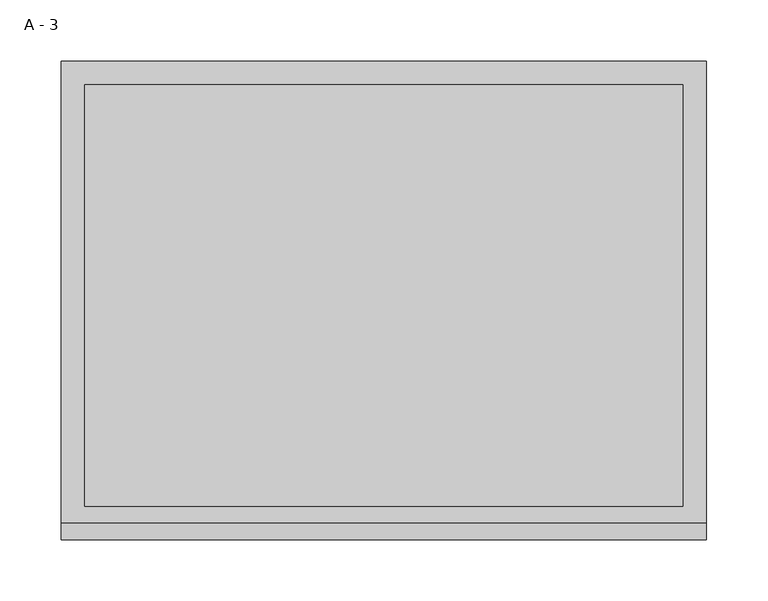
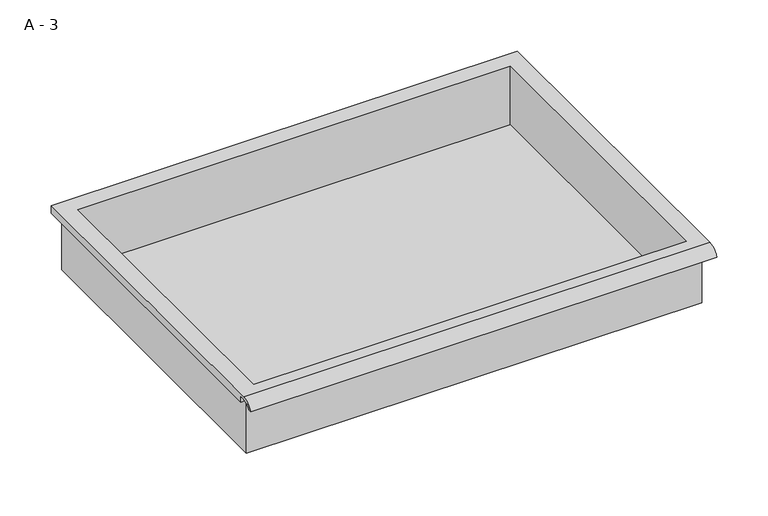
"""IFC4 building model written with IfcOpenShell, lengths in millimetres: furniture geometry, HermanMiller_CoStruc_CO207_Drawer : A - 3."""

from ifc_helpers import new_model, si_unit, frame, origin, place, context, project, spatial, polyline, circle_curve, source, transform, mapped, element, save
from ifc_brep_helpers import plane_surface, cylinder_surface, revolved_surface, advanced_brep


def a_3_99eb42a9(model_context):
    return source(origin(), model_context, "Body", "AdvancedBrep", [
        advanced_brep(
        [(-257.1076517, -176.2125, 955.675), (257.2423483, -176.2125, 955.675), (257.2423483, -176.2125, 1019.175), (263.5923483, -176.2125, 1019.175), (263.5923483, -176.2125, 1025.4821341), (-263.4576517, -176.2125, 1025.4821341), (-263.4576517, -176.2125, 1019.175), (-257.1076517, -176.2125, 1019.175), (257.2423483, 185.7375, 955.675), (-257.1076517, 185.7375, 955.675), (-257.1076517, 185.7375, 1019.175), (257.2423483, 185.7375, 1019.175), (263.5923483, -181.6070544, 1028.7), (263.5923483, 195.2625, 1028.7), (-263.4576517, 195.2625, 1028.7), (-263.4576517, -181.6070544, 1028.7), (244.5423483, -168.275, 1028.7), (-244.4076517, -168.275, 1028.7), (-244.4076517, 176.2125, 1028.7), (244.5423483, 176.2125, 1028.7), (263.5923483, -195.2625, 1019.175), (263.5923483, -191.8280601, 1019.175), (263.5923483, -180.4714815, 1025.4821341), (263.5923483, 195.2625, 1019.175), (-263.4576517, 195.2625, 1019.175), (-263.4576517, -180.4714815, 1025.4821341), (-263.4576517, -191.8280601, 1019.175), (-263.4576517, -195.2625, 1019.175), (-244.4076517, -168.275, 958.7011719), (244.5423483, -168.275, 958.7011719), (244.5423483, 176.2125, 958.7011719), (-244.4076517, 176.2125, 958.7011719)],
        [
            (0, 1),
            (1, 2),
            (2, 3),
            (3, 4),
            (4, 5),
            (5, 6),
            (6, 7),
            (7, 0),
            (8, 9),
            (9, 10),
            (10, 11),
            (11, 8),
            (0, 9),
            (8, 1),
            (11, 2),
            (12, 13),
            (13, 14),
            (14, 15),
            (15, 12),
            (16, 17),
            (17, 18),
            (18, 19),
            (19, 16),
            (7, 10),
            (12, 20, circle_curve(frame((263.5923483, -181.6070544, 1014.1489859), z_axis=(1.0, 0.0, 0.0), x_axis=(0.0, 1.0, 0.0)), 14.5510141)),
            (20, 21),
            (21, 22, circle_curve(frame((263.5923483, -181.6070544, 1014.1489859), z_axis=(-1.0, 0.0, 0.0), x_axis=(0.0, 1.0, 0.0)), 11.3898979)),
            (22, 4),
            (3, 23),
            (23, 13),
            (14, 24),
            (24, 6),
            (5, 25),
            (25, 26, circle_curve(frame((-263.4576517, -181.6070544, 1014.1489859), z_axis=(1.0, 0.0, 0.0), x_axis=(0.0, 1.0, 0.0)), 11.3898979)),
            (26, 27),
            (27, 15, circle_curve(frame((-263.4576517, -181.6070544, 1014.1489859), z_axis=(-1.0, 0.0, 0.0), x_axis=(0.0, 1.0, 0.0)), 14.5510141)),
            (27, 20),
            (26, 21),
            (25, 22),
            (24, 23),
            (28, 29),
            (29, 30),
            (30, 31),
            (31, 28),
            (28, 17),
            (16, 29),
            (19, 30),
            (18, 31),
        ],
        [
            plane_surface(frame((257.2423483, -176.2125, 955.675), z_axis=(0.0, -1.0, 0.0), x_axis=(1.0, 0.0, 0.0))),
            plane_surface(frame((257.2423483, 185.7375, 955.675), z_axis=(0.0, 1.0, 0.0), x_axis=(-1.0, 0.0, 0.0))),
            plane_surface(frame((-257.1076517, -176.2125, 955.675), z_axis=(0.0, 0.0, -1.0), x_axis=(0.0, 1.0, 0.0))),
            plane_surface(frame((257.2423483, -176.2125, 955.675), z_axis=(1.0, 0.0, 0.0), x_axis=(0.0, 1.0, 0.0))),
            plane_surface(frame((257.2423483, -176.2125, 1028.7), z_axis=(0.0, 0.0, 1.0), x_axis=(0.0, 1.0, 0.0))),
            plane_surface(frame((-257.1076517, -176.2125, 1028.7), z_axis=(-1.0, 0.0, 0.0), x_axis=(0.0, 1.0, 0.0))),
            plane_surface(frame((263.5923483, 195.2625, 1028.7), z_axis=(1.0, 0.0, 0.0), x_axis=(0.0, -1.0, 0.0))),
            plane_surface(frame((-263.4576517, 195.2625, 1028.7), z_axis=(-1.0, 0.0, 0.0), x_axis=(0.0, 1.0, 0.0))),
            cylinder_surface(frame((-263.4576517, -181.6070544, 1014.1489859), z_axis=(1.0, 0.0, 0.0), x_axis=(0.0, 1.0, 0.0)), 14.5510141),
            plane_surface(frame((263.5923483, -195.2625, 1019.175), z_axis=(0.0, -7.330645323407e-12, -1.0), x_axis=(-1.0, 0.0, 0.0))),
            revolved_surface(polyline([(-263.4576517, -170.21715650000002, 1014.1489859), (263.59234829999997, -170.21715650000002, 1014.1489859)]), (-263.4576517, -181.6070544, 1014.1489859), (-1.0, 0.0, 0.0)),
            plane_surface(frame((263.5923483, -180.4714815, 1025.4821341), z_axis=(0.0, -1.8115665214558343e-11, -1.0), x_axis=(-1.0, 0.0, 0.0))),
            plane_surface(frame((263.5923483, -176.2125, 1019.175), z_axis=(0.0, 0.0, -1.0), x_axis=(-1.0, 0.0, 0.0))),
            plane_surface(frame((263.5923483, 195.2625, 1019.175), z_axis=(0.0, 1.0, 0.0), x_axis=(-1.0, 0.0, 0.0))),
            plane_surface(frame((244.5423483, -168.275, 958.7011719), z_axis=(0.0, 0.0, 1.0), x_axis=(-1.0, 0.0, 0.0))),
            plane_surface(frame((-244.4076517, -168.275, 1028.7), z_axis=(0.0, 1.0, 0.0), x_axis=(0.0, 0.0, -1.0))),
            plane_surface(frame((244.5423483, -168.275, 1028.7), z_axis=(-1.0, 0.0, 0.0), x_axis=(0.0, 0.0, -1.0))),
            plane_surface(frame((244.5423483, 176.2125, 1028.7), z_axis=(0.0, -1.0, 0.0), x_axis=(0.0, 0.0, -1.0))),
            plane_surface(frame((-244.4076517, 176.2125, 1028.7), z_axis=(1.0, 0.0, 0.0), x_axis=(0.0, 0.0, -1.0))),
        ],
        [
            (0, [[1, 2, 3, 4, 5, 6, 7, 8]]),
            (1, [[9, 10, 11, 12]]),
            (2, [[-1, 13, -9, 14]]),
            (3, [[-14, -12, 15, -2]]),
            (4, [[16, 17, 18, 19], [20, 21, 22, 23]]),
            (5, [[-13, -8, 24, -10]]),
            (6, [[-16, 25, 26, 27, 28, -4, 29, 30]]),
            (7, [[31, 32, -6, 33, 34, 35, 36, -18]]),
            (8, [[-25, -19, -36, 37]]),
            (9, [[-26, -37, -35, 38]]),
            (10, [[-27, -38, -34, 39]]),
            (11, [[-28, -39, -33, -5]]),
            (12, [[-29, -3, -15, -11, -24, -7, -32, 40]]),
            (13, [[-30, -40, -31, -17]]),
            (14, [[41, 42, 43, 44]]),
            (15, [[-41, 45, -20, 46]]),
            (16, [[-42, -46, -23, 47]]),
            (17, [[-43, -47, -22, 48]]),
            (18, [[-44, -48, -21, -45]]),
        ],
    ),
    ])


if __name__ == "__main__":
    model = new_model("IFC4")
    model_context = context("Model", 3, world=origin())
    ifc_project = project(units=[si_unit("LENGTHUNIT", "METRE", prefix="MILLI")], contexts=[model_context])
    site = spatial("IfcSite", under=ifc_project)
    building = spatial("IfcBuilding", under=site)
    placement = place(None, origin())
    a_3_shape = a_3_99eb42a9(model_context)
    element("IfcFurniture", 1, ObjectType="HermanMiller_CoStruc_CO207_Drawer : A - 3", at=placement, inside=building, context=model_context, shape_type="MappedRepresentation", body=[
        mapped(a_3_shape, transform((0.0, 0.0, 0.0), x_axis=(1.0, 0.0, 0.0), y_axis=(0.0, 1.0, 0.0), z_axis=(0.0, 0.0, 1.0))),
    ])
    save(model, "model.ifc")
